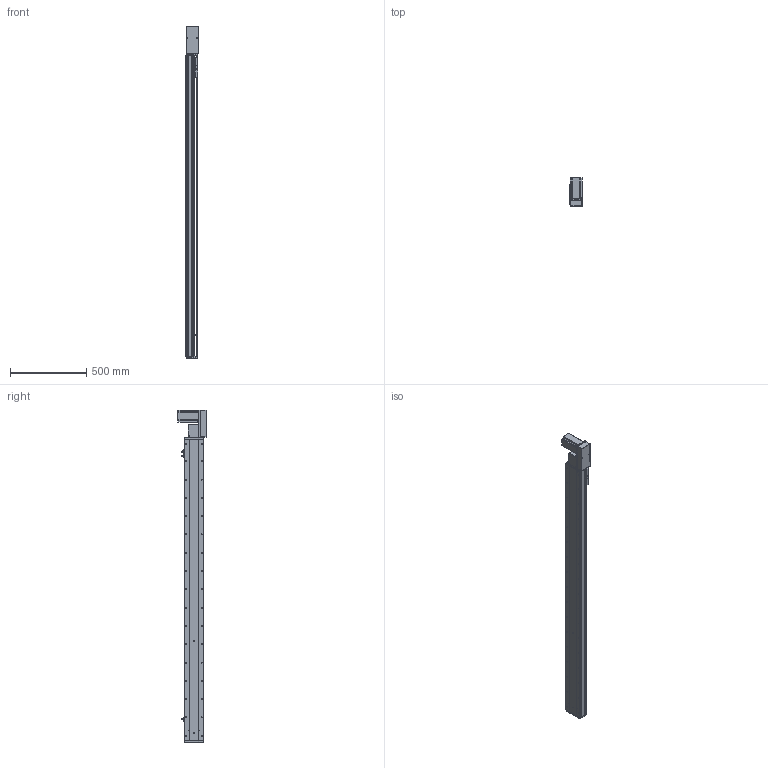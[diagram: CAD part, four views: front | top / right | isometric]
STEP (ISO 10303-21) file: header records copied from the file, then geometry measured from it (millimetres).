
FILE_DESCRIPTION (( 'STEP AP214' ), '1' );
FILE_NAME ('KSD130B-S1750-MLB-CM.STEP', '2019-11-14T03:40:22', ( '微软用户' ), ( '微软中国' ), 'SwSTEP 2.0', 'SolidWorks 2014', '' );
FILE_SCHEMA (( 'AUTOMOTIVE_DESIGN' ));
Length unit declared in the file: millimetre
Products named in the file (12): 台达ECMA－C20807AS伺服电机; 130宽模组保护罩上下左右折-同步带; 130宽模组马达安装板连板左右折同步带; 覜茼え100遵圉猾敕; U倰嫖萇EEㄜSX672; 130宽盖板半封闭同步带-1750行程; 130宽马达安装板同步带左-改; 130宽马达安装板同步带半封闭; 130宽同步带安装座半封闭; 130宽端盖同步带半封闭; 130宽底板半封闭同步带-1750行程; KSD130B-S1750-MLB-CM
Assembly tree (13 placements, depth 2):
  KSD130B-S1750-MLB-CM
    130宽底板半封闭同步带-1750行程
    130宽端盖同步带半封闭
    130宽同步带安装座半封闭
    130宽马达安装板同步带半封闭
    130宽马达安装板同步带左-改
    130宽盖板半封闭同步带-1750行程
    U倰嫖萇EEㄜSX672  x3
    覜茼え100遵圉猾敕
    130宽模组马达安装板连板左右折同步带
    130宽模组保护罩上下左右折-同步带
    台达ECMA－C20807AS伺服电机
Bounding box: 82.5 x 184.8 x 2177 mm (x, y, z)
Volume: 7011385.7 mm3; surface area: 1982816 mm2
Topology: 14 solids, 14 shells, 1727 faces, 5021 edges, 3181 vertices
Faces by surface type: cylinder 850, plane 650, cone 227
Entity records: 58799 total; most frequent: CARTESIAN_POINT 11358, DIRECTION 8859, ORIENTED_EDGE 8574, EDGE_CURVE 4287, AXIS2_PLACEMENT_3D 3262, VERTEX_POINT 2805, VECTOR 2335, LINE 2335
